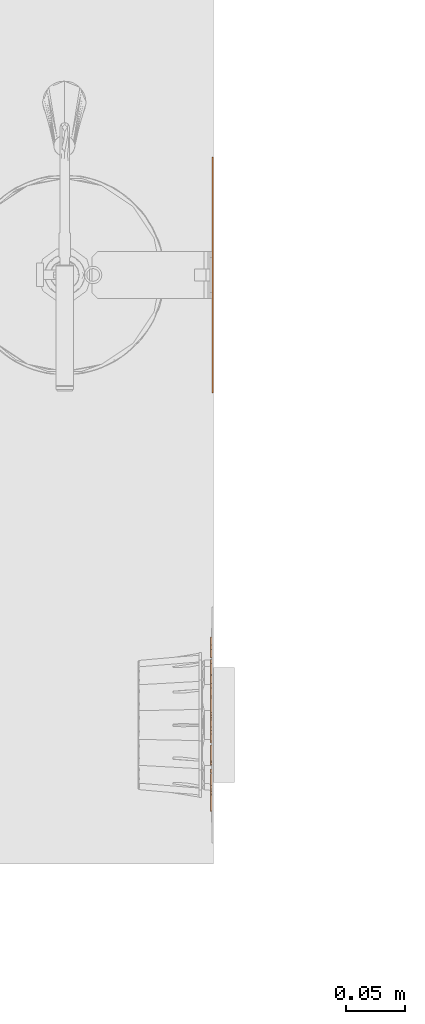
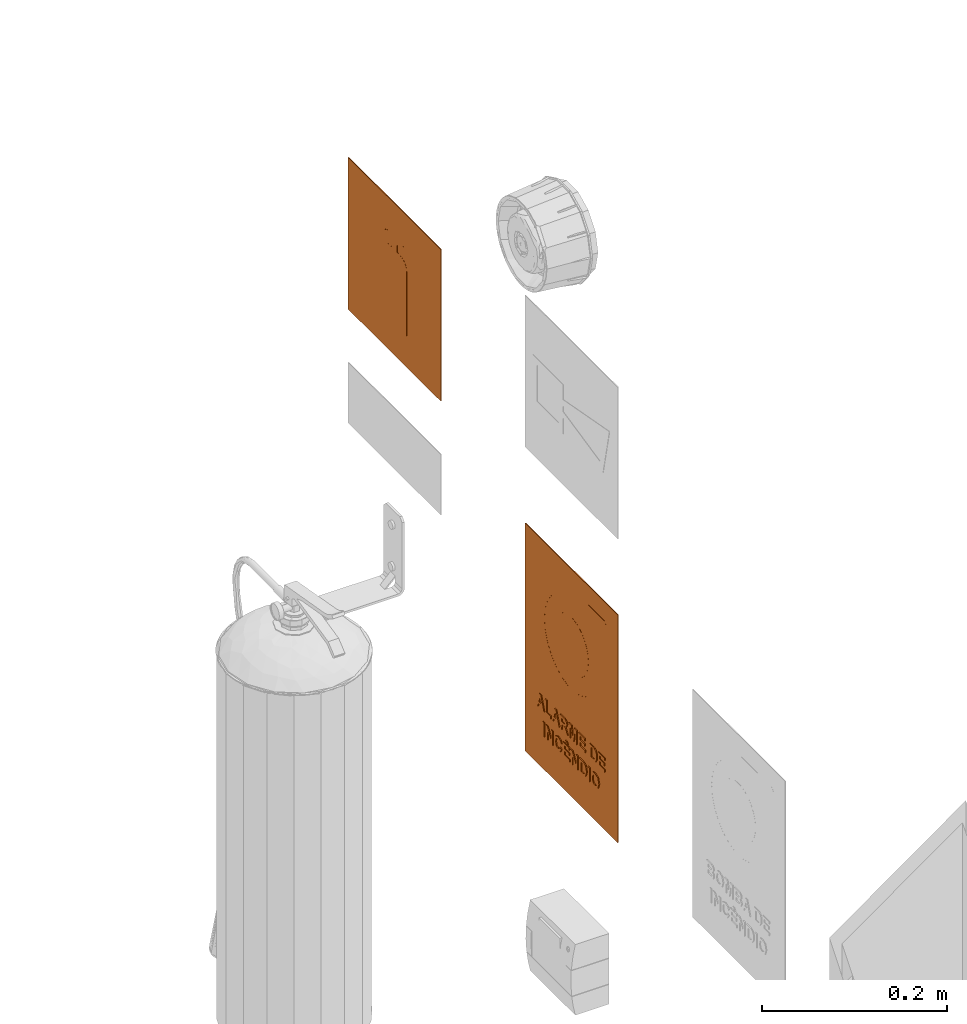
# One storey, part 63 of 119: 2 proxies.
"""IFC2X3 building model written with IfcOpenShell, lengths in metres."""

from ifc_helpers import new_model, entity, si_unit, converted_unit, derived_unit, direction, frame, frame_2d, origin, origin_2d_with_axis, place, context, subcontext, project, spatial, polyline, circle_curve, parameter, trimmed, segment, composite_curve, rectangle, circle, outline, extrude, source, transform, mapped, material, material_list, type_object, type_shapes, element, save


model = new_model("IFC2X3")

# Units and contexts
model_context = context("Model", 3, precision=1e-05, world=origin(), true_north=direction((6.12303176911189e-17, 1.0)))
body_context = subcontext(model_context, "Body", "Model", "MODEL_VIEW")
ifc_project = project(units=[si_unit("LENGTHUNIT", "METRE"), si_unit("AREAUNIT", "SQUARE_METRE"), si_unit("VOLUMEUNIT", "CUBIC_METRE"), converted_unit("PLANEANGLEUNIT", "DEGREE", entity("IfcRatioMeasure", 0.0174532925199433), si_unit("PLANEANGLEUNIT", "RADIAN"), dimensions=[0, 0, 0, 0, 0, 0, 0]), si_unit("MASSUNIT", "GRAM", prefix="KILO"), derived_unit("MASSDENSITYUNIT", [(si_unit("MASSUNIT", "GRAM", prefix="KILO"), 1), (si_unit("LENGTHUNIT", "METRE"), -3)]), derived_unit("MOMENTOFINERTIAUNIT", [(si_unit("LENGTHUNIT", "METRE"), 4)]), si_unit("TIMEUNIT", "SECOND"), si_unit("FREQUENCYUNIT", "HERTZ"), si_unit("THERMODYNAMICTEMPERATUREUNIT", "DEGREE_CELSIUS"), derived_unit("THERMALTRANSMITTANCEUNIT", [(si_unit("MASSUNIT", "GRAM", prefix="KILO"), 1), (si_unit("THERMODYNAMICTEMPERATUREUNIT", "KELVIN"), -1), (si_unit("TIMEUNIT", "SECOND"), -3)]), derived_unit("VOLUMETRICFLOWRATEUNIT", [(si_unit("LENGTHUNIT", "METRE"), 3), (si_unit("TIMEUNIT", "SECOND"), -1)]), si_unit("ELECTRICCURRENTUNIT", "AMPERE"), si_unit("ELECTRICVOLTAGEUNIT", "VOLT"), si_unit("POWERUNIT", "WATT"), si_unit("FORCEUNIT", "NEWTON", prefix="KILO"), si_unit("ILLUMINANCEUNIT", "LUX"), si_unit("LUMINOUSFLUXUNIT", "LUMEN"), si_unit("LUMINOUSINTENSITYUNIT", "CANDELA"), derived_unit("USERDEFINED", [(si_unit("MASSUNIT", "GRAM", prefix="KILO"), -1), (si_unit("LENGTHUNIT", "METRE"), -2), (si_unit("TIMEUNIT", "SECOND"), 3), (si_unit("LUMINOUSFLUXUNIT", "LUMEN"), 1)]), derived_unit("LINEARVELOCITYUNIT", [(si_unit("LENGTHUNIT", "METRE"), 1), (si_unit("TIMEUNIT", "SECOND"), -1)]), si_unit("PRESSUREUNIT", "PASCAL"), derived_unit("USERDEFINED", [(si_unit("LENGTHUNIT", "METRE"), -2), (si_unit("MASSUNIT", "GRAM", prefix="KILO"), 1), (si_unit("TIMEUNIT", "SECOND"), -2)]), derived_unit("LINEARFORCEUNIT", [(si_unit("MASSUNIT", "GRAM", prefix="KILO"), 1), (si_unit("LENGTHUNIT", "METRE"), 1), (si_unit("TIMEUNIT", "SECOND"), -2), (si_unit("LENGTHUNIT", "METRE"), -1)]), derived_unit("PLANARFORCEUNIT", [(si_unit("MASSUNIT", "GRAM", prefix="KILO"), 1), (si_unit("LENGTHUNIT", "METRE"), 1), (si_unit("TIMEUNIT", "SECOND"), -2), (si_unit("LENGTHUNIT", "METRE"), -2)])], contexts=[model_context])

# Site, building, storey
site_placement = place(None, origin())
site = spatial("IfcSite", under=ifc_project, at=site_placement, Name="Default", CompositionType="ELEMENT")
building_placement = place(site_placement, origin())
building = spatial("IfcBuilding", under=site, at=building_placement, CompositionType="ELEMENT")
storey_placement = place(building_placement, origin())
storey = spatial("IfcBuildingStorey", under=building, at=storey_placement, Name="PAV. 01 - TÉRREO", CompositionType="ELEMENT", Elevation=0.0)

# Proxies
ifc_material_1 = material(Name="Plastico branco")
ifc_material_2 = material(Name="Plastico vermelho")
ifc_material_list_1 = material_list([ifc_material_1, ifc_material_2])
building_element_proxy_type_1 = type_object("IfcBuildingElementProxyType", Name="Sinalização de equipamentos - E05 - Extintor de incêndio:Distância 08m", PredefinedType="NOTDEFINED", material=ifc_material_1)
shared_shape_1 = source(origin(), body_context, "Body", "SweptSolid", [
    extrude(outline(composite_curve([segment(polyline([(-0.039533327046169, -0.0988107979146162), (0.0136590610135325, -0.0988107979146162)]), True, "CONTINUOUS"), segment(polyline([(0.0136590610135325, -0.0988107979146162), (0.0136590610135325, -0.0150548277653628)]), True, "CONTINUOUS"), segment(polyline([(0.0136590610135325, -0.0150548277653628), (0.0132403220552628, -0.0112272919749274)]), True, "CONTINUOUS"), segment(polyline([(0.0132403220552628, -0.0112272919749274), (0.0119841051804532, -0.00798860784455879)]), True, "CONTINUOUS"), segment(polyline([(0.0119841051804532, -0.00798860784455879), (0.00989041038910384, -0.00533877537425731)]), True, "CONTINUOUS"), segment(polyline([(0.00989041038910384, -0.00533877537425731), (0.00695923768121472, -0.00327779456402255)]), True, "CONTINUOUS"), segment(polyline([(0.00695923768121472, -0.00327779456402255), (0.00319058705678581, -0.00180566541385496)]), True, "CONTINUOUS"), segment(polyline([(0.00319058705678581, -0.00180566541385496), (-0.00141554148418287, -0.000922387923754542)]), True, "CONTINUOUS"), segment(polyline([(-0.00141554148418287, -0.000922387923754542), (-0.00685914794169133, -0.000627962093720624)]), True, "CONTINUOUS"), segment(polyline([(-0.00685914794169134, -0.000627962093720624), (-0.00685914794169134, 0.00837547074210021)]), True, "CONTINUOUS"), segment(polyline([(-0.00685914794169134, 0.00837547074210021), (0.000568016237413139, 0.00837547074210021)]), True, "CONTINUOUS"), segment(polyline([(0.000568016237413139, 0.00837547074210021), (0.021500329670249, -0.0075875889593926)]), True, "CONTINUOUS"), segment(polyline([(0.021500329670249, -0.0075875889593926), (0.021500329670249, -0.0104328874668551)]), True, "CONTINUOUS"), segment(polyline([(0.021500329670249, -0.0104328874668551), (0.0245059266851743, -0.0104328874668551)]), True, "CONTINUOUS"), segment(polyline([(0.0245059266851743, -0.0104328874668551), (0.0245059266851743, -0.00811335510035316)]), True, "CONTINUOUS"), segment(polyline([(0.0245059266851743, -0.00811335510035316), (0.0243642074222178, -0.00545038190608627)]), True, "CONTINUOUS"), segment(polyline([(0.0243642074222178, -0.00545038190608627), (0.0239570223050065, -0.0032112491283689)]), True, "CONTINUOUS"), segment(polyline([(0.0239570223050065, -0.0032112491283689), (0.0233113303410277, -0.00132119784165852)]), True, "CONTINUOUS"), segment(polyline([(0.0233113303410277, -0.00132119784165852), (0.0224540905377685, 0.00029453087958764)]), True, "CONTINUOUS"), segment(polyline([(0.0224540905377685, 0.00029453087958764), (0.0214122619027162, 0.00171069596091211)]), True, "CONTINUOUS"), segment(polyline([(0.0214122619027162, 0.00171069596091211), (0.0202128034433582, 0.00300205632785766)]), True, "CONTINUOUS"), segment(polyline([(0.0202128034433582, 0.00300205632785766), (0.0188826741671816, 0.00424337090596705)]), True, "CONTINUOUS"), segment(polyline([(0.0188826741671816, 0.00424337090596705), (0.0144021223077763, 0.00811180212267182)]), True, "CONTINUOUS"), segment(polyline([(0.0144021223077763, 0.00811180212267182), (0.0113518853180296, 0.0106145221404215)]), True, "CONTINUOUS"), segment(polyline([(0.0113518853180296, 0.0106145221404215), (0.0085825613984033, 0.0127576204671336)]), True, "CONTINUOUS"), segment(polyline([(0.0085825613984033, 0.0127576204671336), (0.00738733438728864, 0.0136170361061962)]), True, "CONTINUOUS"), segment(polyline([(0.00738733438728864, 0.0136170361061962), (0.00631521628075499, 0.0143235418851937)]), True, "CONTINUOUS"), segment(polyline([(0.00631521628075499, 0.0143235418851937), (0.00532850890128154, 0.0148903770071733)]), True, "CONTINUOUS"), segment(polyline([(0.00532850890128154, 0.0148903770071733), (0.00438926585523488, 0.0153309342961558)]), True, "CONTINUOUS"), segment(polyline([(0.00438926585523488, 0.0153309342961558), (0.00345954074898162, 0.0156586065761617)]), True, "CONTINUOUS"), segment(polyline([(0.00345954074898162, 0.0156586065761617), (0.00250138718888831, 0.0158867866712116)]), True, "CONTINUOUS"), segment(polyline([(0.00250138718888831, 0.0158867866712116), (0.00144087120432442, 0.0160289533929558)]), True, "CONTINUOUS"), segment(polyline([(0.00144087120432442, 0.0160289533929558), (-0.000108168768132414, 0.0160993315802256)]), True, "CONTINUOUS"), segment(polyline([(-0.000108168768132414, 0.0160993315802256), (-0.00685914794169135, 0.0160831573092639)]), True, "CONTINUOUS"), segment(polyline([(-0.00685914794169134, 0.0160831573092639), (-0.00685914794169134, 0.0213863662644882)]), True, "CONTINUOUS"), segment(polyline([(-0.00685914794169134, 0.0213863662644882), (-0.0177728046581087, 0.0213863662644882)]), True, "CONTINUOUS"), segment(polyline([(-0.0177728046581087, 0.0213863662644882), (-0.0177728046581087, 0.0160831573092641)]), True, "CONTINUOUS"), segment(polyline([(-0.0177728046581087, 0.0160831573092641), (-0.0288467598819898, 0.0160831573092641)]), True, "CONTINUOUS"), segment(trimmed(circle_curve(frame_2d((-0.0288467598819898, 0.0122293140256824), x_axis=(-1.0, 0.0)), 0.00385384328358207), [parameter(270.0)], [parameter(90.0000000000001)], True, "PARAMETER"), True, "CONTINUOUS"), segment(polyline([(-0.0288467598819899, 0.00837547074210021), (-0.0190151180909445, 0.00837547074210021)]), True, "CONTINUOUS"), segment(polyline([(-0.0190151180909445, 0.00837547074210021), (-0.0190151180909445, -0.000627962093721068)]), True, "CONTINUOUS"), segment(polyline([(-0.0190151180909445, -0.000627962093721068), (-0.024458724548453, -0.000922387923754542)]), True, "CONTINUOUS"), segment(polyline([(-0.024458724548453, -0.000922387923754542), (-0.0290648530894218, -0.00180566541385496)]), True, "CONTINUOUS"), segment(polyline([(-0.0290648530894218, -0.00180566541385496), (-0.0328335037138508, -0.00327779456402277)]), True, "CONTINUOUS"), segment(polyline([(-0.0328335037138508, -0.00327779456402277), (-0.03576467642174, -0.00533877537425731)]), True, "CONTINUOUS"), segment(polyline([(-0.03576467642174, -0.00533877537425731), (-0.0378583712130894, -0.00798860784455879)]), True, "CONTINUOUS"), segment(polyline([(-0.0378583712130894, -0.00798860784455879), (-0.0391145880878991, -0.0112272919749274)]), True, "CONTINUOUS"), segment(polyline([(-0.0391145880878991, -0.0112272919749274), (-0.039533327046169, -0.0150548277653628)]), True, "CONTINUOUS"), segment(polyline([(-0.039533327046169, -0.0150548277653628), (-0.039533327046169, -0.0988107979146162)]), True, "CONTINUOUS")], self_intersect=False)), frame((-0.0129371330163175, -0.0011, 1.94006139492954), z_axis=(0.0, 1.0, 0.0), x_axis=(-1.0, 0.0, 0.0)), (0.0, 0.0, 1.0), 0.0011),
    extrude(rectangle(XDim=0.001, YDim=0.179, at=origin_2d_with_axis()), frame((0.0, -0.0005, 1.8105), z_axis=(0.0, 0.0, 1.0), x_axis=(0.0, 1.0, 0.0)), (0.0, 0.0, 1.0), 0.179),
    extrude(outline(polyline([(-0.100000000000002, -0.1), (0.100000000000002, -0.1), (0.100000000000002, 0.1), (-0.100000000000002, 0.1), (-0.100000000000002, -0.1)]), holes=[polyline([(-0.0895000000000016, -0.0895000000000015), (-0.0895000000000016, 0.0894999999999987), (0.0894999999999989, 0.0894999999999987), (0.0894999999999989, -0.0895000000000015), (-0.0895000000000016, -0.0895000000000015)])]), frame((0.0, -0.001, 1.9), z_axis=(0.0, 1.0, 0.0), x_axis=(0.0, 0.0, -1.0)), (0.0, 0.0, 1.0), 0.001),
])
type_shapes(building_element_proxy_type_1, [shared_shape_1])
proxy_1_placement = place(storey_placement, frame((48.3240605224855, 12.4374199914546, 0.0), z_axis=(0.0, 0.0, 1.0), x_axis=(0.0, -1.0, 0.0)))
element("IfcBuildingElementProxy", 1, at=proxy_1_placement, inside=storey, type_object=building_element_proxy_type_1, material=ifc_material_list_1, Name="Sinalização de equipamentos - E05 - Extintor de incêndio:Distância 08m", ObjectType="Sinalização de equipamentos - E05 - Extintor de incêndio:Distância 08m", context=body_context, shape_type="MappedRepresentation", body=[
    mapped(shared_shape_1, transform((0.0, 0.0, 0.0), scale=1.0)),
])
ifc_material_list_2 = material_list([ifc_material_1, ifc_material_2])
building_element_proxy_type_2 = type_object("IfcBuildingElementProxyType", Name="Sinalização de equipamentos - E02 - Comando manual de alarme:Distância 08m", PredefinedType="NOTDEFINED", material=ifc_material_1)
shared_shape_2 = source(origin(), body_context, "Body", "SweptSolid", [
    extrude(outline(polyline([(-0.00862797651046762, -0.00563161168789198), (-0.00493908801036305, -0.00563161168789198), (-0.00349461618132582, -0.00153589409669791), (0.00346718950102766, -0.00153589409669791), (0.00489337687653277, -0.00563161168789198), (0.00863254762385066, -0.00563161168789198), (0.00190386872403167, 0.0127991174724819), (-0.00183530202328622, 0.0127991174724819), (-0.00862797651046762, -0.00563161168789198)]), holes=[polyline([(-0.00237012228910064, 0.00168216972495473), (2.2855566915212e-06, 0.00841084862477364), (0.00234269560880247, 0.00168216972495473), (-0.00237012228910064, 0.00168216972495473)])]), frame((-0.0659680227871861, -0.0022123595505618, 1.53273031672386), z_axis=(0.0, 1.0, 0.0), x_axis=(-1.0, 0.0, 0.0)), (0.0, 0.0, 1.0), 0.0022123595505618),
    extrude(outline(polyline([(-0.00721626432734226, -0.0054609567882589), (0.0112144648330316, -0.0054609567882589), (0.0112144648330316, -0.00195034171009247), (-0.00399820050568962, -0.00195034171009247), (-0.00399820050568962, 0.00741129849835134), (-0.00721626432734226, 0.00741129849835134), (-0.00721626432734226, -0.0054609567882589)])), frame((-0.0501237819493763, -0.0022123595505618, 1.53431496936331), z_axis=(0.0, 1.0, 0.0), x_axis=(0.0, 0.0, 1.0)), (0.0, 0.0, 1.0), 0.0022123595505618),
    extrude(outline(polyline([(-0.00862797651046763, -0.00563161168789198), (-0.00493908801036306, -0.00563161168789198), (-0.00349461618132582, -0.00153589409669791), (0.00346718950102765, -0.00153589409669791), (0.00489337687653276, -0.00563161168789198), (0.00863254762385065, -0.00563161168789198), (0.00190386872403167, 0.0127991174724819), (-0.00183530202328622, 0.0127991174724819), (-0.00862797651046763, -0.00563161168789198)]), holes=[polyline([(-0.00237012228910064, 0.00168216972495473), (2.28555669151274e-06, 0.00841084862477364), (0.00234269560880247, 0.00168216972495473), (-0.00237012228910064, 0.00168216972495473)])]), frame((-0.0332022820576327, -0.0022123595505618, 1.53273031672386), z_axis=(0.0, 1.0, 0.0), x_axis=(-1.0, 0.0, 0.0)), (0.0, 0.0, 1.0), 0.0022123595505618),
    extrude(outline(polyline([(-0.00817015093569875, -0.00955162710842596), (0.0102605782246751, -0.00955162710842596), (0.0102605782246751, -0.00179901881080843), (0.00976232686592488, 0.00245211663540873), (0.00798873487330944, 0.00457311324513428), (0.00506779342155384, 0.00536848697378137), (0.00162574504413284, 0.00421885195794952), (-8.38513611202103e-05, 0.000779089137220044), (-0.00161974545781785, 0.00262124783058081), (-0.00459554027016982, 0.00457768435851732), (-0.00817015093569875, 0.00683124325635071), (-0.00817015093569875, 0.00273095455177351), (-0.00396015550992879, 6.14243360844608e-05), (-0.00146204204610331, -0.00203443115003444), (-0.000563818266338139, -0.00523649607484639), (-0.00817015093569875, -0.00604101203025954), (-0.00817015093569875, -0.00955162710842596)]), holes=[polyline([(0.0026542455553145, -0.00604101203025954), (0.0026542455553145, -0.00314749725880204), (0.00286680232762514, 0.0003654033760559), (0.00698308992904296, -0.000135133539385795), (0.00704251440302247, -0.00298750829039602), (0.00704251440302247, -0.00604101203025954), (0.0026542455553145, -0.00604101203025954)])]), frame((-0.0132673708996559, -0.0022123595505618, 1.53526885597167), z_axis=(0.0, 1.0, 0.0), x_axis=(0.0, 0.0, 1.0)), (0.0, 0.0, 1.0), 0.0022123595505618),
    extrude(outline(polyline([(-0.00835388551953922, -0.0089231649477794), (0.0100768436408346, -0.0089231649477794), (0.0100768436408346, -0.00290757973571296), (-0.00249371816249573, -3.51624106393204e-07), (0.0100768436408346, 0.00290687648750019), (0.0100768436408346, 0.00892246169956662), (-0.00835388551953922, 0.00892246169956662), (-0.00835388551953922, 0.0054118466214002), (0.00615482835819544, 0.00526557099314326), (-0.00835388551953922, 0.00205664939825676), (-0.00835388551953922, -0.00205278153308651), (0.00615482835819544, -0.00526627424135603), (-0.00835388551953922, -0.00541254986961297), (-0.00835388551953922, -0.0089231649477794)])), frame((0.00453489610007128, -0.0022123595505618, 1.53545259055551), z_axis=(0.0, 1.0, 0.0), x_axis=(0.0, 0.0, 1.0)), (0.0, 0.0, 1.0), 0.0022123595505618),
    extrude(outline(polyline([(-0.00931288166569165, -0.00799640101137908), (0.00911784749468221, -0.00799640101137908), (0.00911784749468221, 0.00575350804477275), (0.00589978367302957, 0.00575350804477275), (0.00589978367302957, -0.00448578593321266), (0.0018040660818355, -0.00448578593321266), (0.0018040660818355, 0.00516840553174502), (-0.00141399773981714, 0.00516840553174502), (-0.00141399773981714, -0.00448578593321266), (-0.00609481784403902, -0.00448578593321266), (-0.00609481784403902, 0.00604605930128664), (-0.00931288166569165, 0.00604605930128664), (-0.00931288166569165, -0.00799640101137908)])), frame((0.0249643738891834, -0.0022123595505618, 1.53641158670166), z_axis=(0.0, 1.0, 0.0), x_axis=(0.0, 0.0, 1.0)), (0.0, 0.0, 1.0), 0.0022123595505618),
    extrude(outline(polyline([(-0.00963237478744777, -0.00923822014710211), (-0.00280770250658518, -0.00923822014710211), (0.000712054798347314, -0.00888624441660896), (0.00350043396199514, -0.00718807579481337), (0.00526716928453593, -0.00420313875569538), (0.00587284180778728, 0.000155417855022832), (0.00530602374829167, 0.00407743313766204), (0.00332216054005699, 0.00733206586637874), (0.000698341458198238, 0.00880396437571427), (-0.00260657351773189, 0.00919250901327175), (-0.00963237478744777, 0.00919250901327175), (-0.00963237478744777, -0.00923822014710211)]), holes=[polyline([(-0.00612175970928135, -0.00602015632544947), (-0.00612175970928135, 0.00597444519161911), (-0.00313225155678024, 0.00597444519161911), (-0.000709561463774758, 0.00580074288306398), (0.000906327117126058, 0.00504879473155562), (0.00195539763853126, 0.00330034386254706), (0.00236222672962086, -1.82844535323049e-05), (0.00195539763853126, -0.00324091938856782), (0.000819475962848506, -0.00499622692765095), (-0.00103411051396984, -0.00584645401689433), (-0.00432074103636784, -0.00602015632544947), (-0.00612175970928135, -0.00602015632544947)])]), frame((0.0505895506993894, -0.0022123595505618, 1.53629121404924), z_axis=(0.0, 1.0, 0.0), x_axis=(1.0, 0.0, 0.0)), (0.0, 0.0, 1.0), 0.0022123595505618),
    extrude(outline(polyline([(-0.00931288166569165, -0.00799640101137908), (0.00911784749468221, -0.00799640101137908), (0.00911784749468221, 0.00575350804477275), (0.00589978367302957, 0.00575350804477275), (0.00589978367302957, -0.00448578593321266), (0.0018040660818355, -0.00448578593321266), (0.0018040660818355, 0.00516840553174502), (-0.00141399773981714, 0.00516840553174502), (-0.00141399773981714, -0.00448578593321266), (-0.00609481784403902, -0.00448578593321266), (-0.00609481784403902, 0.00604605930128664), (-0.00931288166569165, 0.00604605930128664), (-0.00931288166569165, -0.00799640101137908)])), frame((0.0673843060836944, -0.0022123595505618, 1.53641158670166), z_axis=(0.0, 1.0, 0.0), x_axis=(0.0, 0.0, 1.0)), (0.0, 0.0, 1.0), 0.0022123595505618),
    extrude(rectangle(XDim=0.0022123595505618, YDim=0.00351061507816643, at=frame_2d((0.0, -4.22838847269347e-18), x_axis=(1.0, 0.0))), frame((-0.0588028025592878, -0.0011061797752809, 1.49460223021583), z_axis=(0.0, 0.0, 1.0), x_axis=(0.0, 1.0, 0.0)), (0.0, 0.0, 1.0), 0.0184307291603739),
    extrude(outline(polyline([(-0.00919708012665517, -0.00744862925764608), (0.00923364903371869, -0.00744862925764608), (0.00923364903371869, -0.00376888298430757), (-0.00317235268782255, 0.00396086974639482), (0.00923364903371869, 0.00396086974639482), (0.00923364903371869, 0.00747148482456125), (-0.00919708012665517, 0.00747148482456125), (-0.00919708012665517, 0.00367746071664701), (0.00302607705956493, -0.00393801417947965), (-0.00919708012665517, -0.00393801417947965), (-0.00919708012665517, -0.00744862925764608)])), frame((-0.046088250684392, -0.0022123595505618, 1.50379931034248), z_axis=(0.0, 1.0, 0.0), x_axis=(0.0, 0.0, 1.0)), (0.0, 0.0, 1.0), 0.0022123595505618),
    extrude(outline(polyline([(0.00431987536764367, 0.00106265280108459), (0.0080203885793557, 0.00106265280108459), (0.00679097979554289, 0.00611977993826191), (0.0025895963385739, 0.00904043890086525), (-0.00392677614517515, 0.00861545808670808), (-0.00830378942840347, 0.00297217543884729), (-0.00825825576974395, -0.00444402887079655), (-0.00308837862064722, -0.00880297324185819), (0.00280208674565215, -0.00859337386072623), (0.0057075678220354, -0.00587580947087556), (0.00256213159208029, -0.004210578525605), (0.000503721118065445, -0.0057818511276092), (-0.00230057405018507, -0.00567343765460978), (-0.00522195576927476, -0.00319871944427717), (-0.00505861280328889, 0.00160616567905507), (-0.0022796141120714, 0.00575840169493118), (0.00144185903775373, 0.00603088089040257), (0.00369975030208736, 0.00431216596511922), (0.00431987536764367, 0.00106265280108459)])), frame((-0.0268737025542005, -0.0022123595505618, 1.50399764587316), z_axis=(0.0, 1.0, 0.0), x_axis=(0.948683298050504, 0.0, -0.316227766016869)), (0.0, 0.0, 1.0), 0.0022123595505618),
    extrude(outline(polyline([(-0.00931288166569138, -0.00799640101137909), (0.00911784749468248, -0.00799640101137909), (0.00911784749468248, 0.00575350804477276), (0.00589978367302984, 0.00575350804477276), (0.00589978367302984, -0.00448578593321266), (0.00180406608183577, -0.00448578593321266), (0.00180406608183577, 0.00516840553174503), (-0.00141399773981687, 0.00516840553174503), (-0.00141399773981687, -0.00448578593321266), (-0.00609481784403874, -0.00448578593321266), (-0.00609481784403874, 0.00604605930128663), (-0.00931288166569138, 0.00604605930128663), (-0.00931288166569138, -0.00799640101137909)])), frame((-0.00867902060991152, -0.0022123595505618, 1.50391511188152), z_axis=(0.0, 1.0, 0.0), x_axis=(0.0, 0.0, 1.0)), (0.0, 0.0, 1.0), 0.0022123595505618),
    extrude(outline(polyline([(-0.00919708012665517, -0.00744862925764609), (0.00923364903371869, -0.00744862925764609), (0.00923364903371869, -0.00376888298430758), (-0.00317235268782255, 0.00396086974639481), (0.00923364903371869, 0.00396086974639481), (0.00923364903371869, 0.00747148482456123), (-0.00919708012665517, 0.00747148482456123), (-0.00919708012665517, 0.003677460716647), (0.00302607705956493, -0.00393801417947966), (-0.00919708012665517, -0.00393801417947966), (-0.00919708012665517, -0.00744862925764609)])), frame((0.00774118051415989, -0.0022123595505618, 1.50379931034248), z_axis=(0.0, 1.0, 0.0), x_axis=(0.0, 0.0, 1.0)), (0.0, 0.0, 1.0), 0.0022123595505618),
    extrude(outline(polyline([(-0.00963237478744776, -0.00923822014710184), (-0.00280770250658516, -0.00923822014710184), (0.000712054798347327, -0.00888624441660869), (0.00350043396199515, -0.00718807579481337), (0.00526716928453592, -0.00420313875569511), (0.0058728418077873, 0.000155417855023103), (0.00530602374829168, 0.00407743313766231), (0.003322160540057, 0.00733206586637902), (0.000698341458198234, 0.00880396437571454), (-0.00260657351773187, 0.00919250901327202), (-0.00963237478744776, 0.00919250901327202), (-0.00963237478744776, -0.00923822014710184)]), holes=[polyline([(-0.00612175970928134, -0.0060201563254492), (-0.00612175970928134, 0.00597444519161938), (-0.00313225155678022, 0.00597444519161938), (-0.000709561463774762, 0.00580074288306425), (0.00090632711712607, 0.00504879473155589), (0.00195539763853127, 0.00330034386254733), (0.00236222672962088, -1.82844535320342e-05), (0.00195539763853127, -0.00324091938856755), (0.000819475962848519, -0.00499622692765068), (-0.00103411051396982, -0.00584645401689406), (-0.00432074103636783, -0.0060201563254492), (-0.00612175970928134, -0.0060201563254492)])]), frame((0.0283556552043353, -0.0022123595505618, 1.5037947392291), z_axis=(0.0, 1.0, 0.0), x_axis=(1.0, 0.0, 0.0)), (0.0, 0.0, 1.0), 0.0022123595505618),
    extrude(rectangle(XDim=0.0022123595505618, YDim=0.00351061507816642, at=origin_2d_with_axis()), frame((0.0389093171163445, -0.0011061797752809, 1.49460223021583), z_axis=(0.0, 0.0, 1.0), x_axis=(0.0, 1.0, 0.0)), (0.0, 0.0, 1.0), 0.0184307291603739),
    extrude(outline(polyline([(-0.0027413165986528, -0.0072353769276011), (0.0020480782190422, -0.0072353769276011), (0.00482213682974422, -0.00601174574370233), (0.00685816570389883, -0.00399502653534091), (0.00824841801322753, -0.000275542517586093), (0.00687087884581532, 0.00646330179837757), (0.000381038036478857, 0.0100380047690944), (-0.00689652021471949, 0.0088964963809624), (-0.0104736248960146, 0.00305448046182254), (-0.00911725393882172, -0.00369921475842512), (-0.0027413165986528, -0.0072353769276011)]), holes=[polyline([(-0.00200878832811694, -0.00379965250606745), (-0.00638392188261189, -0.00151705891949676), (-0.00730473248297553, 0.00249405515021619), (-0.00508828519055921, 0.00593636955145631), (-0.000139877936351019, 0.00656516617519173), (0.00422261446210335, 0.00434280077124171), (0.00508584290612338, 0.000320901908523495), (0.00288428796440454, -0.00318203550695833), (-0.00200878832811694, -0.00379965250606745)])]), frame((0.0511902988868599, -0.0022123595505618, 1.50515350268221), z_axis=(0.0, 1.0, 0.0), x_axis=(0.172750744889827, 0.0, 0.984965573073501)), (0.0, 0.0, 1.0), 0.0022123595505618),
    extrude(outline(polyline([(-0.00331762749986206, -0.00249092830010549), (0.000995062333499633, -0.00249092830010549), (0.00269430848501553, -0.00010950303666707), (0.00127033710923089, 0.00393891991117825), (-0.000258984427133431, 0.00179563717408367), (0.0004052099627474, -0.000295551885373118), (-0.00178830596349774, -0.00034764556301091), (-0.00331762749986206, -0.00249092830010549)])), frame((-0.00979524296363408, -0.0022123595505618, 1.51574950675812), z_axis=(0.0, 1.0, 0.0), x_axis=(0.580837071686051, 0.0, 0.814019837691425)), (0.0, 0.0, 1.0), 0.0022123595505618),
    extrude(circle(Radius=0.0367452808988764, at=frame_2d((-5.36303450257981e-23, -2.70716782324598e-16), x_axis=(1.0, 0.0))), frame((0.0, -0.0011, 1.64973853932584), z_axis=(0.0, 1.0, 0.0), x_axis=(1.0, 0.0, 0.0)), (0.0, 0.0, 1.0), 0.0011),
    extrude(outline(polyline([(-0.0713787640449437, -0.075200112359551), (0.0713787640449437, -0.075200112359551), (0.0752001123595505, -0.0713787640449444), (0.0752001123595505, 0.0713787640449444), (0.0713787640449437, 0.075200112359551), (-0.0713787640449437, 0.075200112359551), (-0.0752001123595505, 0.0713787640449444), (-0.0752001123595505, -0.0713787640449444), (-0.0713787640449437, -0.075200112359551)]), holes=[composite_curve([segment(trimmed(circle_curve(origin_2d_with_axis(), 0.0583057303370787), [parameter(180.0)], [parameter(360.0)], True, "PARAMETER"), False, "CONTINUOUS"), segment(trimmed(circle_curve(origin_2d_with_axis(), 0.0583057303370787), [parameter(0.0)], [parameter(180.0)], True, "PARAMETER"), False, "CONTINUOUS")], self_intersect=False)]), frame((0.0, -0.0011, 1.64973853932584), z_axis=(0.0, 1.0, 0.0), x_axis=(1.0, 0.0, 0.0)), (0.0, 0.0, 1.0), 0.0011),
    extrude(rectangle(XDim=0.001, YDim=0.179, at=origin_2d_with_axis()), frame((0.0, -0.0005, 1.4605), z_axis=(0.0, 0.0, 1.0), x_axis=(0.0, 1.0, 0.0)), (0.0, 0.0, 1.0), 0.279),
    extrude(outline(polyline([(-0.150000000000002, -0.1), (0.150000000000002, -0.1), (0.150000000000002, 0.1), (-0.150000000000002, 0.1), (-0.150000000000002, -0.1)]), holes=[polyline([(-0.139500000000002, -0.0895000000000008), (-0.139500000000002, 0.0894999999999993), (0.139499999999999, 0.0894999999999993), (0.139499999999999, -0.0895000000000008), (-0.139500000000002, -0.0895000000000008)])]), frame((0.0, -0.001, 1.6), z_axis=(0.0, 1.0, 0.0), x_axis=(0.0, 0.0, -1.0)), (0.0, 0.0, 1.0), 0.001),
])
type_shapes(building_element_proxy_type_2, [shared_shape_2])
proxy_2_placement = place(storey_placement, frame((48.3240605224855, 12.0554865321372, 0.0), z_axis=(0.0, 0.0, 1.0), x_axis=(0.0, -1.0, 0.0)))
element("IfcBuildingElementProxy", 2, at=proxy_2_placement, inside=storey, type_object=building_element_proxy_type_2, material=ifc_material_list_2, Name="Sinalização de equipamentos - E02 - Comando manual de alarme:Distância 08m", ObjectType="Sinalização de equipamentos - E02 - Comando manual de alarme:Distância 08m", context=body_context, shape_type="MappedRepresentation", body=[
    mapped(shared_shape_2, transform((0.0, 0.0, 0.0), scale=1.0)),
])

save(model, "model.ifc")
